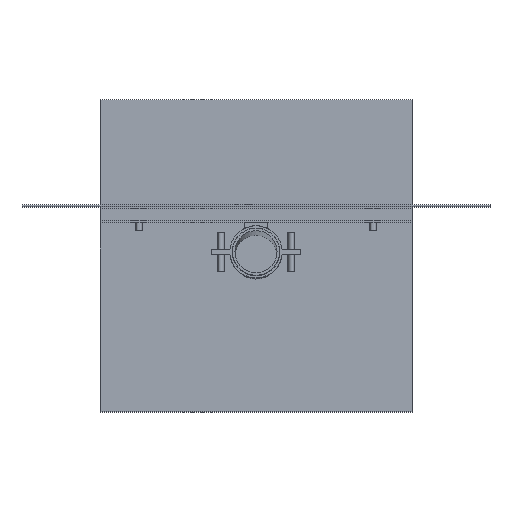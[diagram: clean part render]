
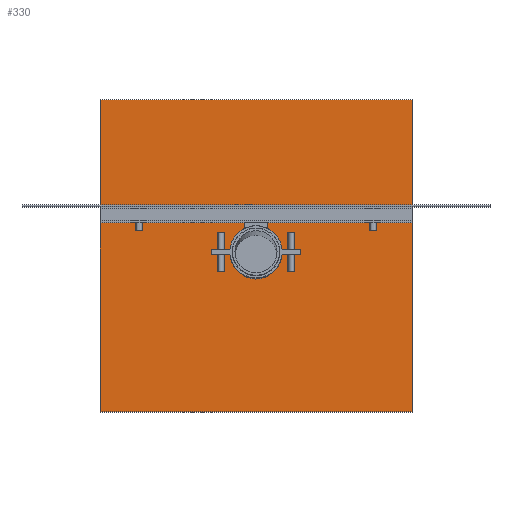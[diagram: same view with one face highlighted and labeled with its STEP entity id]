
A CAD part, top view. The second image highlights one B-rep face of the part: STEP entity #330.
In plain terms, the highlighted planar face has unit normal (0, 0, 1).
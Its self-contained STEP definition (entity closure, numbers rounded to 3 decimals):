
#266 = VERTEX_POINT('',#267);
#267 = CARTESIAN_POINT('',(-200.,-260.,0.));
#282 = VERTEX_POINT('',#283);
#283 = CARTESIAN_POINT('',(-200.,140.,0.));
#289 = EDGE_CURVE('',#266,#282,#290,.T.);
#290 = LINE('',#291,#292);
#291 = CARTESIAN_POINT('',(-200.,-260.,0.));
#292 = VECTOR('',#293,1.);
#293 = DIRECTION('',(0.,1.,0.));
#312 = EDGE_CURVE('',#266,#313,#315,.T.);
#313 = VERTEX_POINT('',#314);
#314 = CARTESIAN_POINT('',(200.,-260.,0.));
#315 = LINE('',#316,#317);
#316 = CARTESIAN_POINT('',(-200.,-260.,0.));
#317 = VECTOR('',#318,1.);
#318 = DIRECTION('',(1.,0.,0.));
#330 = ADVANCED_FACE('',(#331,#349),#360,.T.);
#331 = FACE_BOUND('',#332,.T.);
#332 = EDGE_LOOP('',(#333,#334,#335,#343));
#333 = ORIENTED_EDGE('',*,*,#289,.F.);
#334 = ORIENTED_EDGE('',*,*,#312,.T.);
#335 = ORIENTED_EDGE('',*,*,#336,.T.);
#336 = EDGE_CURVE('',#313,#337,#339,.T.);
#337 = VERTEX_POINT('',#338);
#338 = CARTESIAN_POINT('',(200.,140.,0.));
#339 = LINE('',#340,#341);
#340 = CARTESIAN_POINT('',(200.,-260.,0.));
#341 = VECTOR('',#342,1.);
#342 = DIRECTION('',(0.,1.,0.));
#343 = ORIENTED_EDGE('',*,*,#344,.F.);
#344 = EDGE_CURVE('',#282,#337,#345,.T.);
#345 = LINE('',#346,#347);
#346 = CARTESIAN_POINT('',(-200.,140.,0.));
#347 = VECTOR('',#348,1.);
#348 = DIRECTION('',(1.,0.,0.));
#349 = FACE_BOUND('',#350,.T.);
#350 = EDGE_LOOP('',(#351));
#351 = ORIENTED_EDGE('',*,*,#352,.F.);
#352 = EDGE_CURVE('',#353,#353,#355,.T.);
#353 = VERTEX_POINT('',#354);
#354 = CARTESIAN_POINT('',(30.15,-60.,0.));
#355 = CIRCLE('',#356,30.15);
#356 = AXIS2_PLACEMENT_3D('',#357,#358,#359);
#357 = CARTESIAN_POINT('',(0.,-60.,0.));
#358 = DIRECTION('',(0.,0.,1.));
#359 = DIRECTION('',(1.,0.,0.));
#360 = PLANE('',#361);
#361 = AXIS2_PLACEMENT_3D('',#362,#363,#364);
#362 = CARTESIAN_POINT('',(-200.,-260.,0.));
#363 = DIRECTION('',(0.,0.,1.));
#364 = DIRECTION('',(1.,0.,0.));
